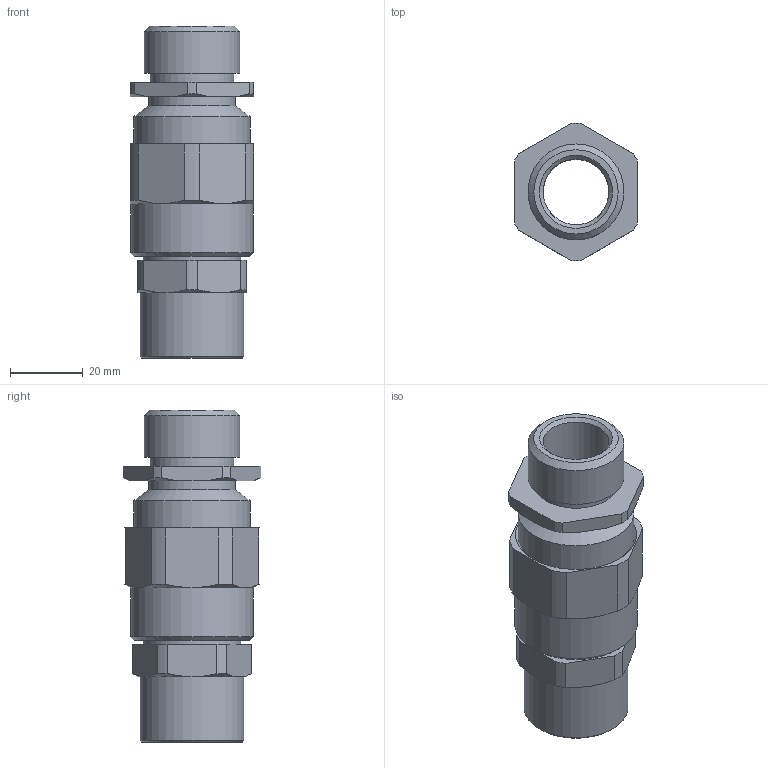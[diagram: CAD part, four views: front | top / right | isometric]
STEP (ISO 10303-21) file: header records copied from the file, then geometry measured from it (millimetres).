
FILE_DESCRIPTION (( 'STEP AP203' ), '1' );
FILE_NAME ('庉觴薦2GHK_胙3D.STEP', '2024-07-24T12:07:27', ( '' ), ( '' ), 'SwSTEP 2.0', 'SolidWorks 2018', '' );
FILE_SCHEMA (( 'CONFIG_CONTROL_DESIGN' ));
Length unit declared in the file: millimetre
Products named in the file (1): 庉觴薦2GHK_胙3D
Bounding box: 34 x 37.99 x 91.5 mm (x, y, z)
Volume: 30905.5 mm3; surface area: 23709.5 mm2
Topology: 1 solids, 2 shells, 99 faces, 228 edges, 148 vertices
Faces by surface type: plane 37, cylinder 37, cone 25
Full cylindrical faces by diameter (mm): 18.1 x2, 22.1 x1, 23 x2, 24 x1, 24.117 x1, 25.376 x1, 26 x1, 26.441 x1, 26.8 x1, 27 x1, 27.5 x1, 28 x1, 28.6 x1, 30 x1, 30.376 x1, 32 x1, 33.8 x1
Entity records: 2757 total; most frequent: CARTESIAN_POINT 586, DIRECTION 452, ORIENTED_EDGE 372, AXIS2_PLACEMENT_3D 196, EDGE_CURVE 186, EDGE_LOOP 150, VERTEX_POINT 138, FACE_OUTER_BOUND 118
